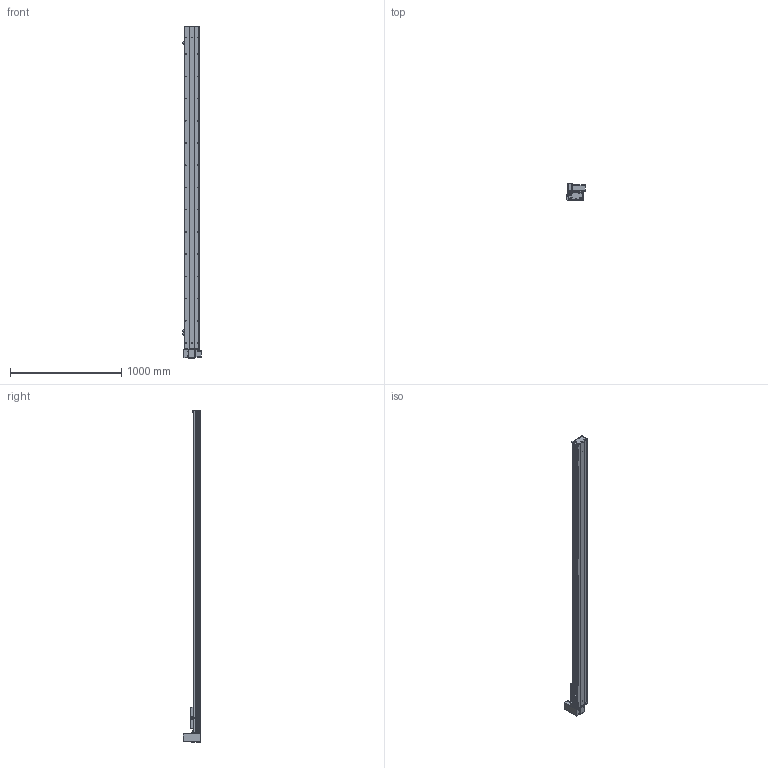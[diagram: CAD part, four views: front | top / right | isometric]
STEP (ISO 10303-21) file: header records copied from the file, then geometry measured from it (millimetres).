
FILE_DESCRIPTION (( 'STEP AP203' ), '1' );
FILE_NAME ('Y135CB-D90-S2600-UR-P400W.STEP', '2020-02-18T06:39:19', ( '微软用户' ), ( '微软中国' ), 'SwSTEP 2.0', 'SolidWorks 2017', '' );
FILE_SCHEMA (( 'CONFIG_CONTROL_DESIGN' ));
Length unit declared in the file: millimetre
Products named in the file (18): Y10B-耜蚾蟀諉啣----; 5CB --掛极耜裔啣-; 00B-俋欶BM--; C-詩湍揤踡え-陔; Y135CB-耜裔; 135CB--詩湍-CE; 135CB---遴掛极.-; Y100-135俋离換覜ん--; 35CB---喘謫眊楊擘啣; Y135C-陔俋离換覜結え-; 0B-埴倛裔啣; 5C--俋欶; 0B-源倛裔啣; C-雄赽釱--; 0B-萇儂楊擘啣; Y135CB-D90-S2600-UR-P400W; Y10B--々湍喘謫眊--666; san松下电机400不带刹车----
Assembly tree (21 placements, depth 2):
  Y135CB-D90-S2600-UR-P400W
    Y135CB-耜裔
    135CB---遴掛极.-
    35CB---喘謫眊楊擘啣
    0B-埴倛裔啣
    0B-源倛裔啣
    0B-萇儂楊擘啣
    san松下电机400不带刹车----
    5CB --掛极耜裔啣-  x2
    C-詩湍揤踡え-陔  x2
    135CB--詩湍-CE
    Y100-135俋离換覜ん--  x3
    Y135C-陔俋离換覜結え-
    5C--俋欶
    C-雄赽釱--
    Y10B--々湍喘謫眊--666
    Y10B-耜蚾蟀諉啣----
    00B-俋欶BM--
Bounding box: 167.5 x 158.7 x 2988 mm (x, y, z)
Volume: 8541510.7 mm3; surface area: 3384255.6 mm2
Topology: 21 solids, 21 shells, 977 faces, 2671 edges, 1770 vertices
Faces by surface type: cylinder 505, plane 456, cone 16
Entity records: 30965 total; most frequent: CARTESIAN_POINT 5164, DIRECTION 5147, ORIENTED_EDGE 4818, EDGE_CURVE 2409, AXIS2_PLACEMENT_3D 1889, VERTEX_POINT 1598, LINE 1369, VECTOR 1369
